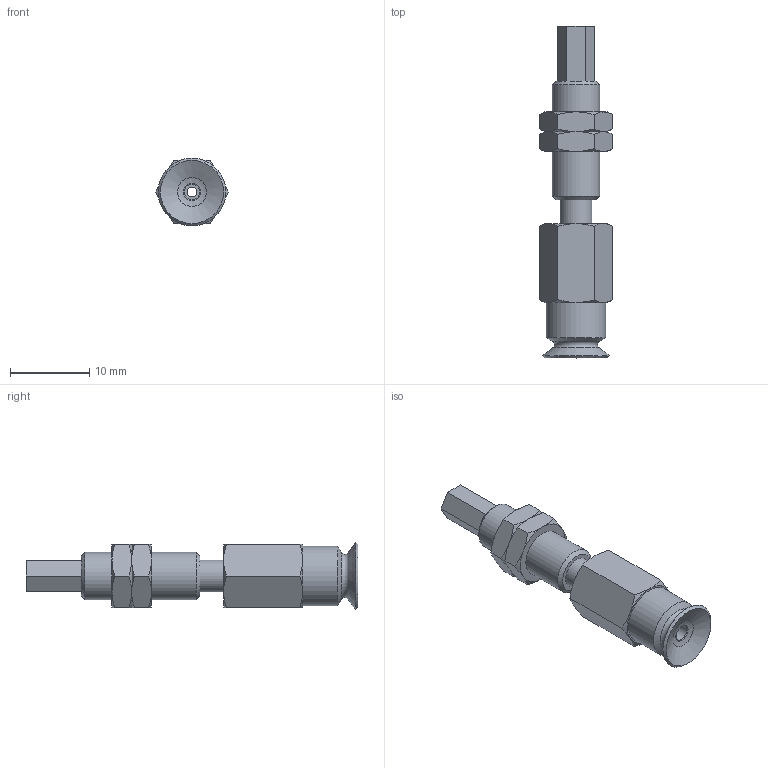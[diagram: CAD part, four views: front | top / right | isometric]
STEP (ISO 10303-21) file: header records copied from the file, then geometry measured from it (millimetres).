
FILE_DESCRIPTION(('STEP AP203'),'1');
FILE_NAME('.stp','2025-08-27T05:41:09',(' '),(' '),'Spatial InterOp 3D',' ',' ');
FILE_SCHEMA(('CONFIG_CONTROL_DESIGN'));
Length unit declared in the file: millimetre
Products named in the file (6): BNABPFTS-8A-3-※; ADAPTER; NAPCTS-7-3-MBODY; Nut-8A-3-s; NAPFTS-8A-3-FBODY; BPFG-8A-※
Assembly tree (6 placements, depth 2):
  BNABPFTS-8A-3-※
    ADAPTER
    NAPCTS-7-3-MBODY
    Nut-8A-3-s  x2
    NAPFTS-8A-3-FBODY
    BPFG-8A-※
Bounding box: 9.24 x 42 x 8.6 mm (x, y, z)
Volume: 1468 mm3; surface area: 2178 mm2
Topology: 6 solids, 6 shells, 117 faces, 245 edges, 144 vertices
Faces by surface type: cone 48, plane 46, cylinder 14, torus 8, bspline 1
Full cylindrical faces by diameter (mm): 1.2 x2, 2 x1, 2.459 x1, 4 x4, 5.188 x2, 6 x3, 7.5 x1
Entity records: 2761 total; most frequent: CARTESIAN_POINT 660, DIRECTION 382, ORIENTED_EDGE 316, AXIS2_PLACEMENT_3D 173, EDGE_CURVE 158, EDGE_LOOP 139, FACE_OUTER_BOUND 116, VERTEX_POINT 109
